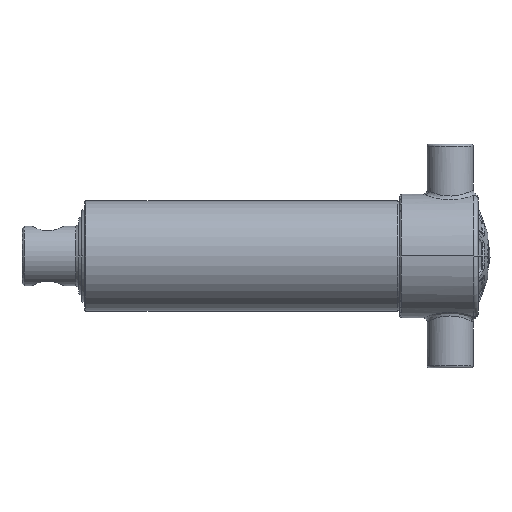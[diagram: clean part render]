
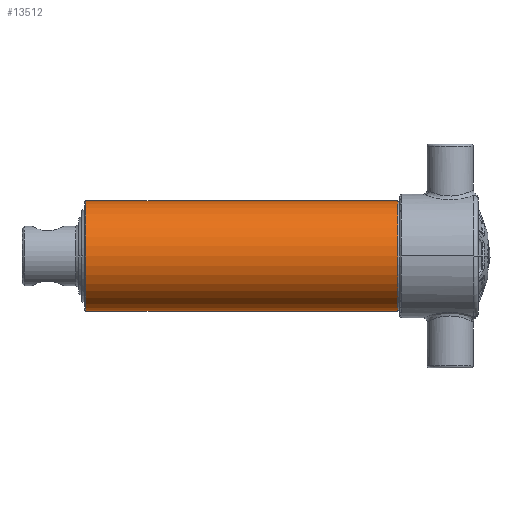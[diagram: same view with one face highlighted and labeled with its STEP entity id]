
A CAD part, left-side view. The second image highlights one B-rep face of the part: STEP entity #13512.
In plain terms, the highlighted cylindrical face has radius 53.5 mm (diameter 107 mm), a partial arc.
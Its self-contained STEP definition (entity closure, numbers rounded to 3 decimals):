
#9259 = CARTESIAN_POINT ( 'NONE',  ( 0., 399., -53.5 ) ) ;
#9265 = CARTESIAN_POINT ( 'NONE',  ( 0., 399., 53.5 ) ) ;
#9285 = DIRECTION ( 'NONE',  ( 0., 0., 1. ) ) ;
#9286 = DIRECTION ( 'NONE',  ( 0., 1., 0. ) ) ;
#9287 = CARTESIAN_POINT ( 'NONE',  ( 0., 427.967, 0. ) ) ;
#9288 = AXIS2_PLACEMENT_3D ( 'NONE', #9287, #9286, #9285 ) ;
#9290 = CYLINDRICAL_SURFACE ( 'NONE', #9288, 53.5 ) ;
#9295 = FACE_OUTER_BOUND ( 'NONE', #13514, .T. ) ;
#9349 = DIRECTION ( 'NONE',  ( 0., 1., 0. ) ) ;
#9350 = VECTOR ( 'NONE', #9349, 1000. ) ;
#9351 = CARTESIAN_POINT ( 'NONE',  ( 0., 427.967, 53.5 ) ) ;
#9352 = LINE ( 'NONE', #9351, #9350 ) ;
#9403 = DIRECTION ( 'NONE',  ( 0., 0., -1. ) ) ;
#9404 = DIRECTION ( 'NONE',  ( 0., -1., 0. ) ) ;
#9405 = CARTESIAN_POINT ( 'NONE',  ( 0., 96., 0. ) ) ;
#9406 = AXIS2_PLACEMENT_3D ( 'NONE', #9405, #9404, #9403 ) ;
#9407 = CIRCLE ( 'NONE', #9406, 53.5 ) ;
#9408 = DIRECTION ( 'NONE',  ( 0., 0., 1. ) ) ;
#9409 = DIRECTION ( 'NONE',  ( 0., -1., 0. ) ) ;
#9410 = CARTESIAN_POINT ( 'NONE',  ( 0., 399., 0. ) ) ;
#9411 = AXIS2_PLACEMENT_3D ( 'NONE', #9410, #9409, #9408 ) ;
#9416 = CIRCLE ( 'NONE', #9411, 53.5 ) ;
#9685 = DIRECTION ( 'NONE',  ( 0., 1., 0. ) ) ;
#9686 = VECTOR ( 'NONE', #9685, 1000. ) ;
#9687 = CARTESIAN_POINT ( 'NONE',  ( 0., 427.967, -53.5 ) ) ;
#9688 = LINE ( 'NONE', #9687, #9686 ) ;
#9689 = CARTESIAN_POINT ( 'NONE',  ( 0., 96., 53.5 ) ) ;
#9690 = CARTESIAN_POINT ( 'NONE',  ( 0., 96., -53.5 ) ) ;
#13486 = VERTEX_POINT ( 'NONE', #9265 ) ;
#13489 = VERTEX_POINT ( 'NONE', #9259 ) ;
#13512 = ADVANCED_FACE ( 'NONE', ( #9295 ), #9290, .T. ) ;
#13513 = ORIENTED_EDGE ( 'NONE', *, *, #13712, .F. ) ;
#13514 = EDGE_LOOP ( 'NONE', ( #13513, #13550, #13520, #13517 ) ) ;
#13517 = ORIENTED_EDGE ( 'NONE', *, *, #13518, .T. ) ;
#13518 = EDGE_CURVE ( 'NONE', #13486, #13489, #9416, .T. ) ;
#13519 = EDGE_CURVE ( 'NONE', #13710, #13709, #9407, .T. ) ;
#13520 = ORIENTED_EDGE ( 'NONE', *, *, #13552, .T. ) ;
#13550 = ORIENTED_EDGE ( 'NONE', *, *, #13519, .F. ) ;
#13552 = EDGE_CURVE ( 'NONE', #13710, #13486, #9352, .T. ) ;
#13709 = VERTEX_POINT ( 'NONE', #9690 ) ;
#13710 = VERTEX_POINT ( 'NONE', #9689 ) ;
#13712 = EDGE_CURVE ( 'NONE', #13709, #13489, #9688, .T. ) ;
